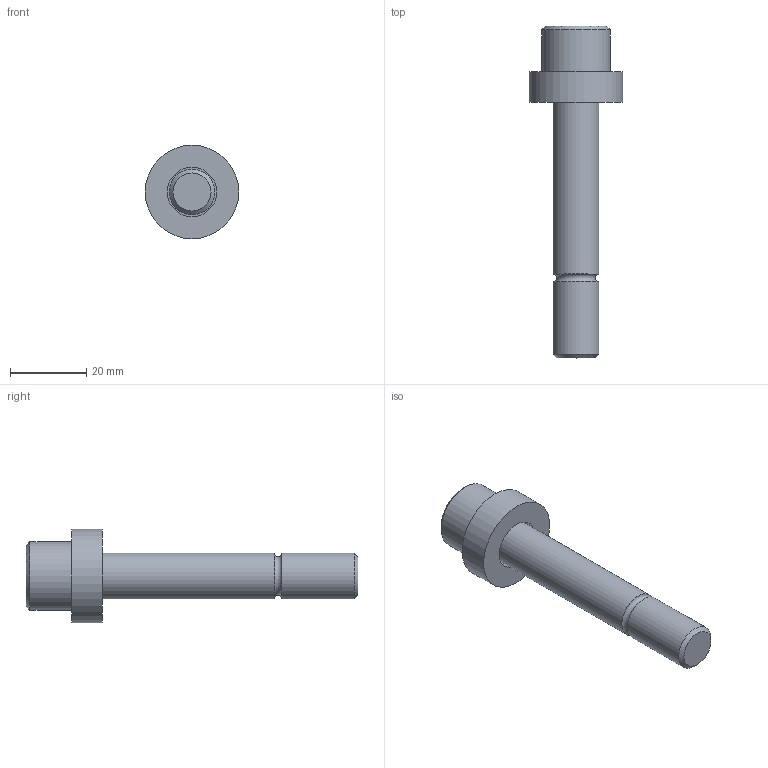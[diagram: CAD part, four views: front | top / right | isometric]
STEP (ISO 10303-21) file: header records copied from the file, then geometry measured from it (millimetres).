
FILE_DESCRIPTION (( 'STEP AP214' ), '1' );
FILE_NAME ('8006501275031.STEP', '2023-12-04T12:58:32', ( '' ), ( '' ), 'SwSTEP 2.0', 'SolidWorks 2021', '' );
FILE_SCHEMA (( 'AUTOMOTIVE_DESIGN' ));
Length unit declared in the file: millimetre
Products named in the file (3): 8006501275031; 8006501275000; 6921285601000
Assembly tree (2 placements, depth 2):
  8006501275031
    6921285601000
    8006501275000
Bounding box: 24.5 x 87 x 24.5 mm (x, y, z)
Volume: 13570.8 mm3; surface area: 5845.8 mm2
Topology: 2 solids, 2 shells, 21 faces, 41 edges, 26 vertices
Faces by surface type: plane 12, cylinder 5, torus 2, cone 2
Full cylindrical faces by diameter (mm): 12 x2, 13 x1, 18 x1, 24.5 x1
Entity records: 739 total; most frequent: DIRECTION 96, CARTESIAN_POINT 82, ORIENTED_EDGE 62, AXIS2_PLACEMENT_3D 39, EDGE_LOOP 34, EDGE_CURVE 31, FACE_OUTER_BOUND 28, VERTEX_POINT 25
